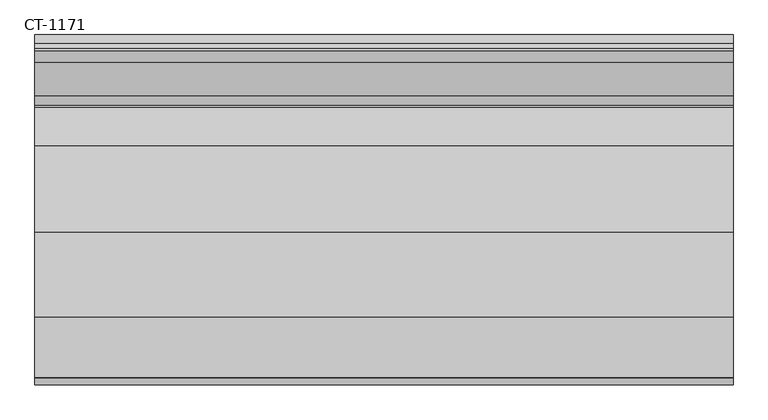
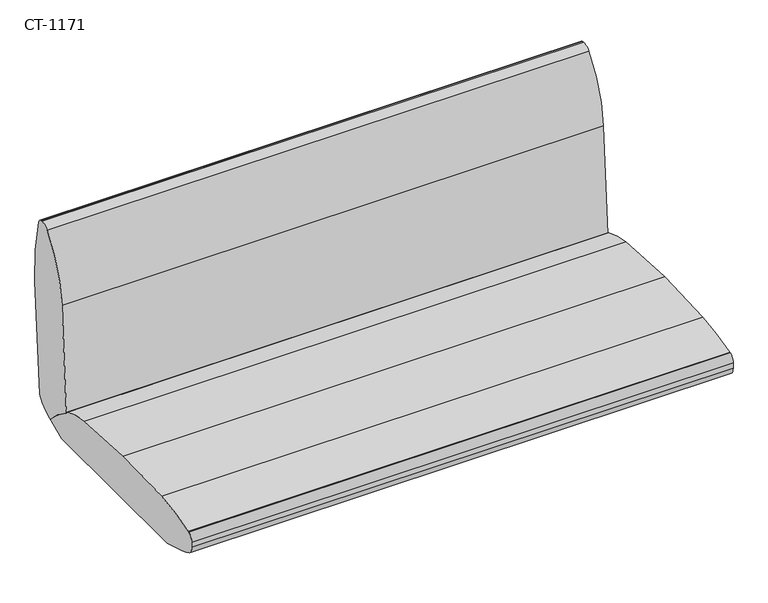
"""IFC4 building model written with IfcOpenShell, lengths in millimetres: furniture geometry, Davis_Furniture-Cantina-Low_Back_Straight : CT-1171."""

from ifc_helpers import new_model, si_unit, point, frame, frame_2d, origin, place, context, project, spatial, polyline, circle_curve, trimmed, segment, composite_curve, outline, extrude, source, transform, mapped, element, save


def ct_1171_14e2fea1(model_context):
    return source(origin(), model_context, "Body", "SweptSolid", [
        extrude(outline(composite_curve([segment(trimmed(circle_curve(frame_2d((474.1493206, 647.1766808)), 265.6354781), [point((209.1609171, 665.7064751))], [point((268.5355522, 815.358682))], False, "CARTESIAN"), True, "CONTINUOUS"), segment(trimmed(circle_curve(frame_2d((288.1962909, 799.2771598)), 25.4), [point((268.5355522, 815.358682))], [point((289.7203272, 824.6313964))], False, "CARTESIAN"), True, "CONTINUOUS"), segment(trimmed(circle_curve(frame_2d((287.8787488, 793.9944533)), 30.6922416), [point((289.7203272, 824.6313964))], [point((294.4061536, 823.984563))], False, "CARTESIAN"), True, "CONTINUOUS"), segment(trimmed(circle_curve(frame_2d((291.9702432, 812.7927917)), 11.4537943), [point((294.4061536, 823.984563))], [point((302.9831943, 815.9399032))], False, "CARTESIAN"), True, "CONTINUOUS"), segment(trimmed(circle_curve(frame_2d((-137.8318519, 689.9705732)), 458.4606603), [point((302.9831943, 815.9399032))], [point((319.5120213, 657.9899742))], False, "CARTESIAN"), True, "CONTINUOUS"), segment(polyline([(319.5120213, 657.9899742), (300.7190563, 389.2380528)]), True, "CONTINUOUS"), segment(trimmed(circle_curve(frame_2d((220.5881555, 443.6723211)), 96.8713106), [point((300.7190563, 389.2380528))], [point((259.2429572, 354.8474534))], False, "CARTESIAN"), True, "CONTINUOUS"), segment(polyline([(259.2429572, 354.8474534), (257.534578, 354.104001)]), True, "CONTINUOUS"), segment(trimmed(circle_curve(frame_2d((-1.5780479, 110.6982429)), 355.5076876), [point((257.534578, 354.104001))], [point((191.236527, 409.3757541))], True, "CARTESIAN"), True, "CONTINUOUS"), segment(polyline([(191.236527, 409.3757541), (209.1609171, 665.7064751)]), True, "CONTINUOUS")], self_intersect=False)), frame((-635.0, 0.0, 0.0), z_axis=(1.0, 0.0, 0.0), x_axis=(0.0, 1.0, 0.0)), (0.0, 0.0, 1.0), 1270.0),
        extrude(outline(composite_curve([segment(trimmed(circle_curve(frame_2d((-298.45, 397.7963214)), 19.05), [point((-317.5, 397.7963214))], [point((-305.7075305, 415.40969))], False, "CARTESIAN"), True, "CONTINUOUS"), segment(trimmed(circle_curve(frame_2d((-158.75, 58.7570862)), 385.7429138), [point((-305.7075305, 415.40969))], [point((-303.9688287, 416.1211685))], False, "CARTESIAN"), True, "CONTINUOUS"), segment(trimmed(circle_curve(frame_2d((-152.4794636, -82.1541678)), 520.7949103), [point((-303.9688287, 416.1211685))], [point((-195.0051963, 436.9016101))], False, "CARTESIAN"), True, "CONTINUOUS"), segment(trimmed(circle_curve(frame_2d((-43.2851266, -1414.9460545)), 1858.0524085), [point((-195.0051963, 436.9016101))], [point((-40.3038638, 443.1039622))], False, "CARTESIAN"), True, "CONTINUOUS"), segment(trimmed(circle_curve(frame_2d((-42.4075795, -868.0213401)), 1311.12699), [point((-40.3038638, 443.1039622))], [point((118.3875039, 433.208434))], False, "CARTESIAN"), True, "CONTINUOUS"), segment(trimmed(circle_curve(frame_2d((89.1279399, 196.42622)), 238.5831908), [point((118.3875039, 433.208434))], [point((186.7525399, 414.121825))], False, "CARTESIAN"), True, "CONTINUOUS"), segment(trimmed(circle_curve(frame_2d((177.0623361, 392.5133904)), 23.6817334), [point((186.7525399, 414.121825))], [point((192.2244211, 410.7050279))], False, "CARTESIAN"), True, "CONTINUOUS"), segment(polyline([(192.2244211, 410.7050279), (259.2429572, 354.8474534), (211.060536, 333.8794297), (-217.9078165, 333.8794297), (-278.4661162, 352.9828937)]), True, "CONTINUOUS"), segment(trimmed(circle_curve(frame_2d((-183.2470513, 654.8289187)), 316.5085989), [point((-278.4661162, 352.9828937))], [point((-294.9895137, 358.7017243))], False, "CARTESIAN"), True, "CONTINUOUS"), segment(trimmed(circle_curve(frame_2d((-272.8348429, 417.4135188)), 62.7527231), [point((-294.9895137, 358.7017243))], [point((-306.6952536, 364.5800367))], False, "CARTESIAN"), True, "CONTINUOUS"), segment(trimmed(circle_curve(frame_2d((-294.0326067, 384.3379698)), 23.4673933), [point((-306.6952536, 364.5800367))], [point((-317.5, 384.3379698))], False, "CARTESIAN"), True, "CONTINUOUS"), segment(polyline([(-317.5, 384.3379698), (-317.5, 397.7963214)]), True, "CONTINUOUS")], self_intersect=False)), frame((-635.0, 0.0, 0.0), z_axis=(1.0, 0.0, 0.0), x_axis=(0.0, 1.0, 0.0)), (0.0, 0.0, 1.0), 1270.0),
    ])


if __name__ == "__main__":
    model = new_model("IFC4")
    model_context = context("Model", 3, world=origin())
    ifc_project = project(units=[si_unit("LENGTHUNIT", "METRE", prefix="MILLI")], contexts=[model_context])
    site = spatial("IfcSite", under=ifc_project)
    building = spatial("IfcBuilding", under=site)
    placement = place(None, origin())
    ct_1171_shape = ct_1171_14e2fea1(model_context)
    element("IfcFurniture", 1, ObjectType="Davis_Furniture-Cantina-Low_Back_Straight : CT-1171", at=placement, inside=building, context=model_context, shape_type="MappedRepresentation", body=[
        mapped(ct_1171_shape, transform((0.0, 0.0, 0.0), x_axis=(1.0, 0.0, 0.0), y_axis=(0.0, 1.0, 0.0), z_axis=(0.0, 0.0, 1.0))),
    ])
    save(model, "model.ifc")
